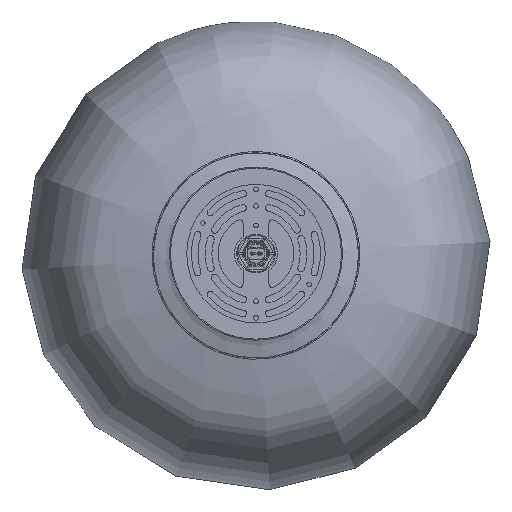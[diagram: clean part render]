
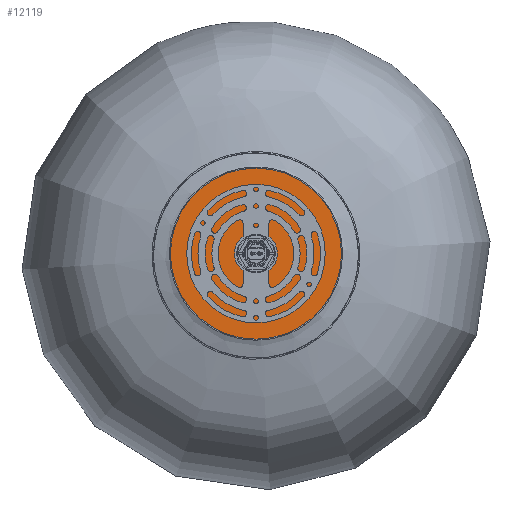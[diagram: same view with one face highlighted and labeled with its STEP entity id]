
A CAD part, top view. The second image highlights one B-rep face of the part: STEP entity #12119.
In plain terms, the highlighted planar face has unit normal (0, 0, 1).
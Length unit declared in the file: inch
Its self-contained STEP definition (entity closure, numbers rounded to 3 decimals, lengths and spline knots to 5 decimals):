
#147=FACE_BOUND('',#2813,.T.);
#801=PLANE('',#13048);
#1074=CIRCLE('',#13043,0.45);
#1076=CIRCLE('',#13046,2.47);
#2029=FACE_OUTER_BOUND('',#2812,.T.);
#2812=EDGE_LOOP('',(#10160));
#2813=EDGE_LOOP('',(#10161));
#5901=VERTEX_POINT('',#22225);
#5903=VERTEX_POINT('',#22231);
#7401=EDGE_CURVE('',#5901,#5901,#1074,.T.);
#7404=EDGE_CURVE('',#5903,#5903,#1076,.F.);
#10160=ORIENTED_EDGE('',*,*,#7404,.T.);
#10161=ORIENTED_EDGE('',*,*,#7401,.T.);
#12119=ADVANCED_FACE('',(#2029,#147),#801,.T.);
#13043=AXIS2_PLACEMENT_3D('',#22226,#15404,#15405);
#13046=AXIS2_PLACEMENT_3D('',#22232,#15411,#15412);
#13048=AXIS2_PLACEMENT_3D('',#22236,#15416,#15417);
#15404=DIRECTION('center_axis',(0.,0.,-1.));
#15405=DIRECTION('ref_axis',(1.,0.,0.));
#15411=DIRECTION('center_axis',(0.,0.,-1.));
#15412=DIRECTION('ref_axis',(1.,0.,0.));
#15416=DIRECTION('center_axis',(0.,0.,1.));
#15417=DIRECTION('ref_axis',(1.,0.,0.));
#22225=CARTESIAN_POINT('',(-0.45,0.,44.99));
#22226=CARTESIAN_POINT('Origin',(0.,0.,44.99));
#22231=CARTESIAN_POINT('',(-2.47,0.,44.99));
#22232=CARTESIAN_POINT('Origin',(0.,0.,44.99));
#22236=CARTESIAN_POINT('Origin',(0.,0.,44.99));
